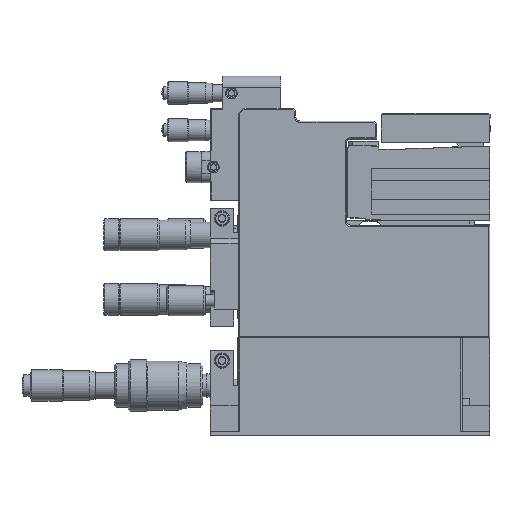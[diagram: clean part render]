
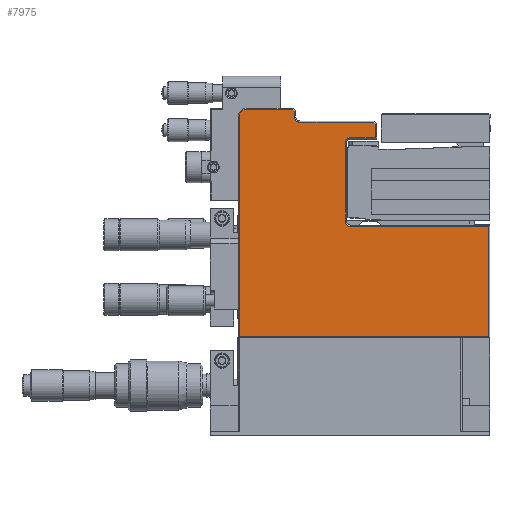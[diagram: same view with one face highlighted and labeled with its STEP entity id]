
A CAD part, top view. The second image highlights one B-rep face of the part: STEP entity #7975.
In plain terms, the highlighted planar face has unit normal (0, 0, 1).
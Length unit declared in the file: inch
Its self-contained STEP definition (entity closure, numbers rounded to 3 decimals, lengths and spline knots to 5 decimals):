
#3481=EDGE_CURVE('P5-DM-MMMM-N-2-HN-SI[2]',#10600,#10157,#10601,.T.);
#4236=EDGE_CURVE('P5-DM-MMMM-N-2-HN-SI[2]',#9899,#11788,#11789,.F.);
#4355=EDGE_CURVE('P5-DM-MMMM-N-2-HN-SI[2]',#11965,#10600,#11966,.T.);
#4488=EDGE_CURVE('P5-DM-MMMM-N-2-HN-SI[2]',#12170,#11537,#12171,.T.);
#4609=EDGE_CURVE('P5-DM-MMMM-N-2-HN-SI[2]',#12025,#11537,#12349,.T.);
#4623=EDGE_CURVE('P5-DM-MMMM-N-2-HN-SI[2]',#12369,#10233,#12370,.T.);
#4740=EDGE_CURVE('P5-DM-MMMM-N-2-HN-SI[2]',#12540,#12170,#12541,.T.);
#4874=EDGE_CURVE('P5-DM-MMMM-N-2-HN-SI[2]',#11788,#12732,#12733,.F.);
#5165=EDGE_CURVE('P5-DM-MMMM-N-2-HN-SI[2]',#10233,#12411,#13152,.T.);
#6057=EDGE_CURVE('P5-DM-MMMM-N-2-HN-SI[2]',#14360,#11132,#14361,.T.);
#6416=EDGE_CURVE('P5-DM-MMMM-N-2-HN-SI[2]',#10157,#11915,#14840,.T.);
#7173=EDGE_CURVE('P5-DM-MMMM-N-2-HN-SI[2]',#12411,#11965,#15791,.T.);
#7377=EDGE_CURVE('P5-DM-MMMM-N-2-HN-SI[2]',#11915,#12540,#16047,.T.);
#7723=EDGE_CURVE('P5-DM-MMMM-N-2-HN-SI[2]',#12732,#14360,#16479,.T.);
#7975=ADVANCED_FACE('P5-DM-MMMM-N-2-HN-SI[2]',(#16802),#16803,.T.);
#8758=EDGE_CURVE('P5-DM-MMMM-N-2-HN-SI[2]',#12025,#9899,#17791,.T.);
#9222=EDGE_CURVE('P5-DM-MMMM-N-2-HN-SI[2]',#11132,#12369,#18360,.T.);
#9899=VERTEX_POINT('',#19231);
#10157=VERTEX_POINT('',#19620);
#10233=VERTEX_POINT('',#19733);
#10600=VERTEX_POINT('',#20258);
#10601=CIRCLE('',#20259,0.085);
#11132=VERTEX_POINT('',#21042);
#11537=VERTEX_POINT('',#21660);
#11788=VERTEX_POINT('',#22039);
#11789=CIRCLE('',#22040,0.11);
#11915=VERTEX_POINT('',#22218);
#11965=VERTEX_POINT('',#22301);
#11966=LINE('',#22302,#22303);
#12025=VERTEX_POINT('',#22387);
#12170=VERTEX_POINT('',#22586);
#12171=LINE('',#22587,#22588);
#12349=LINE('',#22849,#22850);
#12369=VERTEX_POINT('',#22879);
#12370=LINE('',#22880,#22881);
#12411=VERTEX_POINT('',#22937);
#12540=VERTEX_POINT('',#23131);
#12541=LINE('',#23132,#23133);
#12732=VERTEX_POINT('',#23428);
#12733=LINE('',#23429,#23430);
#13152=LINE('',#24064,#24065);
#14360=VERTEX_POINT('',#25915);
#14361=LINE('',#25916,#25917);
#14840=LINE('',#26632,#26633);
#15791=LINE('',#28187,#28188);
#16047=CIRCLE('',#28587,0.085);
#16479=LINE('',#29264,#29265);
#16802=FACE_OUTER_BOUND('',#29739,.T.);
#16803=PLANE('',#29740);
#17791=LINE('',#31348,#31349);
#18360=CIRCLE('',#32272,0.085);
#19231=CARTESIAN_POINT('',(-5.03,-0.55,0.875));
#19620=CARTESIAN_POINT('',(-3.33,-0.98,0.875));
#19733=CARTESIAN_POINT('',(-2.87328,-0.645,0.875));
#20258=CARTESIAN_POINT('',(-3.245,-0.895,0.875));
#20259=AXIS2_PLACEMENT_3D('',#33854,#33855,#33856);
#21042=CARTESIAN_POINT('',(-4.145,-0.56,0.875));
#21660=CARTESIAN_POINT('',(-1.02,-4.1,0.875));
#22039=CARTESIAN_POINT('',(-4.92,-0.44,0.875));
#22040=AXIS2_PLACEMENT_3D('',#35078,#35079,#35080);
#22218=CARTESIAN_POINT('',(-3.33,-2.235,0.875));
#22301=CARTESIAN_POINT('',(-2.845,-0.895,0.875));
#22302=CARTESIAN_POINT('',(-3.02375,-0.895,0.875));
#22303=VECTOR('',#35279,1.0);
#22387=CARTESIAN_POINT('',(-5.03,-4.1,0.875));
#22586=CARTESIAN_POINT('',(-1.02,-2.32,0.875));
#22587=CARTESIAN_POINT('',(-1.02,-3.485,0.875));
#22588=VECTOR('',#35488,1.0);
#22849=CARTESIAN_POINT('',(-3.025,-4.1,0.875));
#22850=VECTOR('',#35699,1.0);
#22879=CARTESIAN_POINT('',(-4.06,-0.645,0.875));
#22880=CARTESIAN_POINT('',(-3.225,-0.645,0.875));
#22881=VECTOR('',#35720,1.0);
#22937=CARTESIAN_POINT('',(-2.845,-0.67328,0.875));
#23131=CARTESIAN_POINT('',(-3.245,-2.32,0.875));
#23132=CARTESIAN_POINT('',(-2.07125,-2.32,0.875));
#23133=VECTOR('',#35906,1.0);
#23428=CARTESIAN_POINT('',(-4.17328,-0.44,0.875));
#23429=CARTESIAN_POINT('',(-3.025,-0.44,0.875));
#23430=VECTOR('',#36102,1.0);
#24064=CARTESIAN_POINT('',(-2.31539,-1.20289,0.875));
#24065=VECTOR('',#36533,1.0);
#25915=CARTESIAN_POINT('',(-4.145,-0.46828,0.875));
#25916=CARTESIAN_POINT('',(-4.145,-1.74875,0.875));
#25917=VECTOR('',#37973,1.0);
#26632=CARTESIAN_POINT('',(-3.33,-2.29125,0.875));
#26633=VECTOR('',#38550,1.0);
#28187=CARTESIAN_POINT('',(-2.845,-1.875,0.875));
#28188=VECTOR('',#39672,1.0);
#28587=AXIS2_PLACEMENT_3D('',#40022,#40023,#40024);
#29264=CARTESIAN_POINT('',(-3.23914,-1.37414,0.875));
#29265=VECTOR('',#40541,1.0);
#29739=EDGE_LOOP('',(#40962,#40963,#40964,#40965,#40966,#40967,#40968,#40969,#40970,#40971,#40972,#40973,#40974,#40975,#40976,#40977));
#29740=AXIS2_PLACEMENT_3D('',#40978,#40979,#40980);
#31348=CARTESIAN_POINT('',(-5.03,-1.73232,0.875));
#31349=VECTOR('',#42259,1.0);
#32272=AXIS2_PLACEMENT_3D('',#42991,#42992,#42993);
#33854=CARTESIAN_POINT('',(-3.245,-0.98,0.875));
#33855=DIRECTION('',(0.0,0.0,1.0));
#33856=DIRECTION('',(-0.707,0.707,0.0));
#35078=CARTESIAN_POINT('',(-4.92,-0.55,0.875));
#35079=DIRECTION('',(0.0,0.0,1.0));
#35080=DIRECTION('',(-0.707,0.707,0.0));
#35279=DIRECTION('',(-1.0,0.0,0.0));
#35488=DIRECTION('',(0.0,-1.0,-0.0));
#35699=DIRECTION('',(1.0,0.0,0.0));
#35720=DIRECTION('',(1.0,0.0,0.0));
#35906=DIRECTION('',(1.0,0.0,0.0));
#36102=DIRECTION('',(-1.0,0.0,0.0));
#36533=DIRECTION('',(0.707,-0.707,0.0));
#37973=DIRECTION('',(0.0,-1.0,-0.0));
#38550=DIRECTION('',(0.0,-1.0,0.0));
#39672=DIRECTION('',(0.0,-1.0,0.0));
#40022=CARTESIAN_POINT('',(-3.245,-2.235,0.875));
#40023=DIRECTION('',(0.0,0.0,1.0));
#40024=DIRECTION('',(-0.707,-0.707,0.0));
#40541=DIRECTION('',(0.707,-0.707,0.0));
#40962=ORIENTED_EDGE('',*,*,#4874,.F.);
#40963=ORIENTED_EDGE('',*,*,#4236,.F.);
#40964=ORIENTED_EDGE('',*,*,#8758,.F.);
#40965=ORIENTED_EDGE('',*,*,#4609,.T.);
#40966=ORIENTED_EDGE('',*,*,#4488,.F.);
#40967=ORIENTED_EDGE('',*,*,#4740,.F.);
#40968=ORIENTED_EDGE('',*,*,#7377,.F.);
#40969=ORIENTED_EDGE('',*,*,#6416,.F.);
#40970=ORIENTED_EDGE('',*,*,#3481,.F.);
#40971=ORIENTED_EDGE('',*,*,#4355,.F.);
#40972=ORIENTED_EDGE('',*,*,#7173,.F.);
#40973=ORIENTED_EDGE('',*,*,#5165,.F.);
#40974=ORIENTED_EDGE('',*,*,#4623,.F.);
#40975=ORIENTED_EDGE('',*,*,#9222,.F.);
#40976=ORIENTED_EDGE('',*,*,#6057,.F.);
#40977=ORIENTED_EDGE('',*,*,#7723,.F.);
#40978=CARTESIAN_POINT('',(-3.025,-3.0,0.875));
#40979=DIRECTION('',(0.0,0.0,1.0));
#40980=DIRECTION('',(0.0,-1.0,0.0));
#42259=DIRECTION('',(0.0,1.0,0.0));
#42991=CARTESIAN_POINT('',(-4.06,-0.56,0.875));
#42992=DIRECTION('',(0.0,0.0,1.0));
#42993=DIRECTION('',(-0.707,-0.707,0.0));
